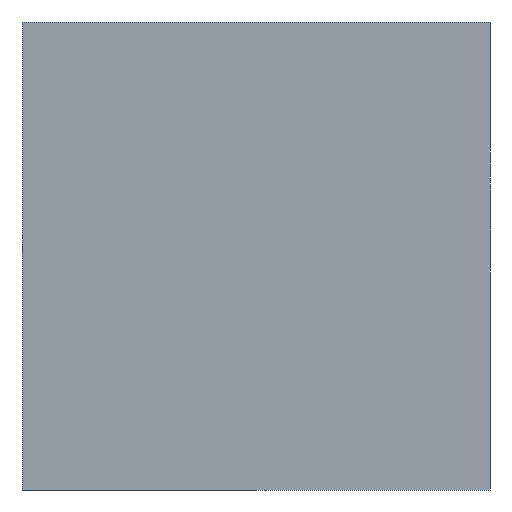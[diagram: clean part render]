
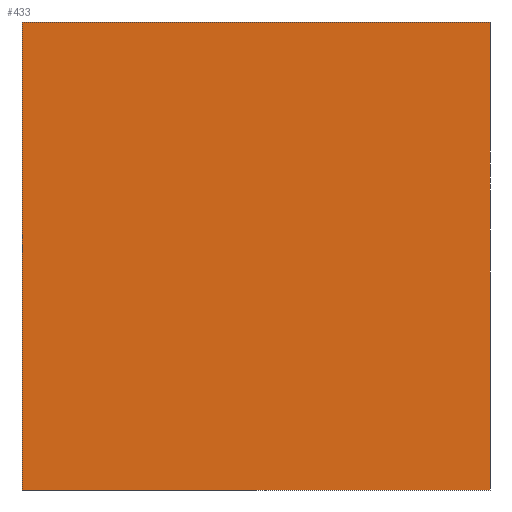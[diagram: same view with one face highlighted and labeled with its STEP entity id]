
A CAD part, left-side view. The second image highlights one B-rep face of the part: STEP entity #433.
In plain terms, the highlighted planar face has unit normal (-1, 0, 0).
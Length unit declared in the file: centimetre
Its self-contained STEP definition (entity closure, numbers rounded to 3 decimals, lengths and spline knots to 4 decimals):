
#17 = CARTESIAN_POINT ( 'NONE',  ( 0., 1000., 0. ) ) ;
#39 = LINE ( 'NONE', #130, #163 ) ;
#54 = ORIENTED_EDGE ( 'NONE', *, *, #151, .T. ) ;
#99 = PLANE ( 'NONE',  #513 ) ;
#114 = VECTOR ( 'NONE', #518, 100. ) ;
#125 = CARTESIAN_POINT ( 'NONE',  ( 0., 0., 1000. ) ) ;
#130 = CARTESIAN_POINT ( 'NONE',  ( 0., 1000., 1000. ) ) ;
#133 = LINE ( 'NONE', #125, #114 ) ;
#140 = CARTESIAN_POINT ( 'NONE',  ( 0., 1000., 0. ) ) ;
#148 = DIRECTION ( 'NONE',  ( 0., 0., -1. ) ) ;
#151 = EDGE_CURVE ( 'NONE', #431, #327, #457, .T. ) ;
#163 = VECTOR ( 'NONE', #516, 100. ) ;
#165 = CARTESIAN_POINT ( 'NONE',  ( 0., 1000., 1000. ) ) ;
#205 = VECTOR ( 'NONE', #596, 100. ) ;
#208 = EDGE_CURVE ( 'NONE', #493, #548, #588, .T. ) ;
#247 = DIRECTION ( 'NONE',  ( 1., 0., 0. ) ) ;
#274 = VECTOR ( 'NONE', #507, 100. ) ;
#277 = CARTESIAN_POINT ( 'NONE',  ( 0., 0., 0. ) ) ;
#291 = FACE_OUTER_BOUND ( 'NONE', #526, .T. ) ;
#297 = EDGE_CURVE ( 'NONE', #548, #327, #133, .T. ) ;
#299 = CARTESIAN_POINT ( 'NONE',  ( 0., 0., 1000. ) ) ;
#327 = VERTEX_POINT ( 'NONE', #277 ) ;
#358 = ORIENTED_EDGE ( 'NONE', *, *, #368, .T. ) ;
#368 = EDGE_CURVE ( 'NONE', #493, #431, #39, .T. ) ;
#384 = CARTESIAN_POINT ( 'NONE',  ( 0., 1000., 1000. ) ) ;
#427 = ORIENTED_EDGE ( 'NONE', *, *, #208, .F. ) ;
#431 = VERTEX_POINT ( 'NONE', #140 ) ;
#433 = ADVANCED_FACE ( 'NONE', ( #291 ), #99, .F. ) ;
#457 = LINE ( 'NONE', #17, #274 ) ;
#485 = CARTESIAN_POINT ( 'NONE',  ( 0., 1000., 1000. ) ) ;
#493 = VERTEX_POINT ( 'NONE', #384 ) ;
#507 = DIRECTION ( 'NONE',  ( 0., -1., 0. ) ) ;
#513 = AXIS2_PLACEMENT_3D ( 'NONE', #485, #247, #148 ) ;
#516 = DIRECTION ( 'NONE',  ( 0., 0., -1. ) ) ;
#518 = DIRECTION ( 'NONE',  ( 0., 0., -1. ) ) ;
#526 = EDGE_LOOP ( 'NONE', ( #54, #575, #427, #358 ) ) ;
#548 = VERTEX_POINT ( 'NONE', #299 ) ;
#575 = ORIENTED_EDGE ( 'NONE', *, *, #297, .F. ) ;
#588 = LINE ( 'NONE', #165, #205 ) ;
#596 = DIRECTION ( 'NONE',  ( 0., -1., 0. ) ) ;
